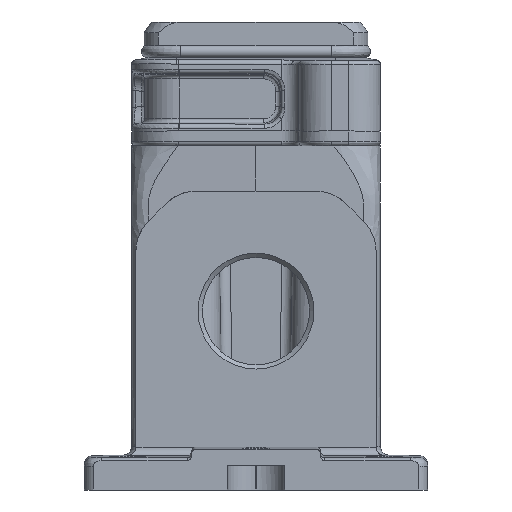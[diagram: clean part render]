
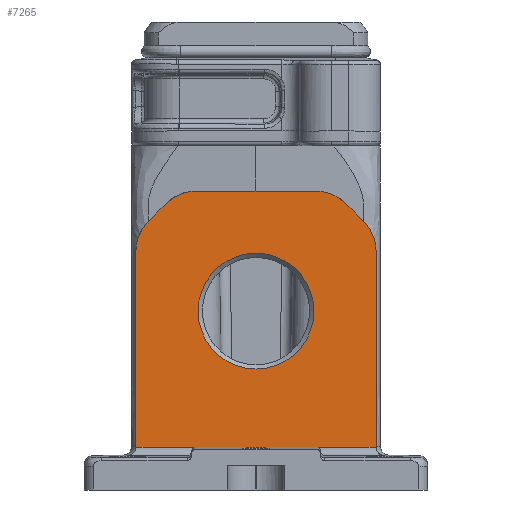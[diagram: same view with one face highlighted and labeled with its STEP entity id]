
A CAD part, left-side view. The second image highlights one B-rep face of the part: STEP entity #7265.
In plain terms, the highlighted planar face has unit normal (-1, 0, 0).
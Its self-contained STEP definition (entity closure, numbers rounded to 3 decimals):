
#6259=ELLIPSE('',#24502,2.,2.);
#6260=ELLIPSE('',#24503,1.,1.);
#6261=ELLIPSE('',#24504,1.,1.);
#6262=ELLIPSE('',#24505,2.,2.);
#6549=FACE_BOUND('',#9714,.T.);
#6550=FACE_BOUND('',#9715,.T.);
#7265=ADVANCED_FACE('',(#6549,#6550),#8255,.F.);
#8255=PLANE('',#24506);
#9714=EDGE_LOOP('',(#11401));
#9715=EDGE_LOOP('',(#11402,#11403,#11404,#11405,#11406,#11407,#11408,#11409,
#11410,#11411,#11412,#11413,#11414,#11415,#11416,#11417));
#10844=CIRCLE('',#24497,13.5);
#10845=CIRCLE('',#24498,10.);
#10846=CIRCLE('',#24499,10.);
#10847=CIRCLE('',#24500,10.);
#10848=CIRCLE('',#24501,10.);
#11401=ORIENTED_EDGE('',*,*,#18036,.T.);
#11402=ORIENTED_EDGE('',*,*,#18037,.F.);
#11403=ORIENTED_EDGE('',*,*,#18038,.T.);
#11404=ORIENTED_EDGE('',*,*,#18039,.F.);
#11405=ORIENTED_EDGE('',*,*,#18040,.T.);
#11406=ORIENTED_EDGE('',*,*,#18041,.F.);
#11407=ORIENTED_EDGE('',*,*,#18042,.F.);
#11408=ORIENTED_EDGE('',*,*,#18043,.T.);
#11409=ORIENTED_EDGE('',*,*,#18044,.F.);
#11410=ORIENTED_EDGE('',*,*,#18045,.T.);
#11411=ORIENTED_EDGE('',*,*,#18046,.F.);
#11412=ORIENTED_EDGE('',*,*,#18047,.F.);
#11413=ORIENTED_EDGE('',*,*,#18048,.F.);
#11414=ORIENTED_EDGE('',*,*,#18049,.T.);
#11415=ORIENTED_EDGE('',*,*,#18050,.T.);
#11416=ORIENTED_EDGE('',*,*,#18051,.T.);
#11417=ORIENTED_EDGE('',*,*,#18052,.T.);
#16403=VERTEX_POINT('',#31403);
#16404=VERTEX_POINT('',#31405);
#16405=VERTEX_POINT('',#31406);
#16406=VERTEX_POINT('',#31408);
#16407=VERTEX_POINT('',#31410);
#16408=VERTEX_POINT('',#31412);
#16409=VERTEX_POINT('',#31414);
#16410=VERTEX_POINT('',#31416);
#16411=VERTEX_POINT('',#31418);
#16412=VERTEX_POINT('',#31420);
#16413=VERTEX_POINT('',#31422);
#16414=VERTEX_POINT('',#31424);
#16415=VERTEX_POINT('',#31426);
#16416=VERTEX_POINT('',#31428);
#16417=VERTEX_POINT('',#31430);
#16418=VERTEX_POINT('',#31432);
#16419=VERTEX_POINT('',#31434);
#18036=EDGE_CURVE('',#16403,#16403,#10844,.T.);
#18037=EDGE_CURVE('',#16404,#16405,#20477,.T.);
#18038=EDGE_CURVE('',#16404,#16406,#10845,.T.);
#18039=EDGE_CURVE('',#16407,#16406,#20478,.T.);
#18040=EDGE_CURVE('',#16407,#16408,#10846,.T.);
#18041=EDGE_CURVE('',#16409,#16408,#20479,.T.);
#18042=EDGE_CURVE('',#16410,#16409,#10847,.T.);
#18043=EDGE_CURVE('',#16410,#16411,#20480,.T.);
#18044=EDGE_CURVE('',#16412,#16411,#10848,.T.);
#18045=EDGE_CURVE('',#16412,#16413,#20481,.T.);
#18046=EDGE_CURVE('',#16414,#16413,#6259,.T.);
#18047=EDGE_CURVE('',#16415,#16414,#20482,.T.);
#18048=EDGE_CURVE('',#16416,#16415,#6260,.T.);
#18049=EDGE_CURVE('',#16416,#16417,#20483,.T.);
#18050=EDGE_CURVE('',#16417,#16418,#6261,.T.);
#18051=EDGE_CURVE('',#16418,#16419,#20484,.T.);
#18052=EDGE_CURVE('',#16419,#16405,#6262,.T.);
#20477=LINE('',#31404,#21982);
#20478=LINE('',#31409,#21983);
#20479=LINE('',#31413,#21984);
#20480=LINE('',#31417,#21985);
#20481=LINE('',#31421,#21986);
#20482=LINE('',#31425,#21987);
#20483=LINE('',#31429,#21988);
#20484=LINE('',#31433,#21989);
#21982=VECTOR('',#26241,1.);
#21983=VECTOR('',#26244,1.);
#21984=VECTOR('',#26247,1.);
#21985=VECTOR('',#26250,1.);
#21986=VECTOR('',#26253,1.);
#21987=VECTOR('',#26256,1.);
#21988=VECTOR('',#26259,1.);
#21989=VECTOR('',#26262,1.);
#24497=AXIS2_PLACEMENT_3D('',#31402,#26239,#26240);
#24498=AXIS2_PLACEMENT_3D('',#31407,#26242,#26243);
#24499=AXIS2_PLACEMENT_3D('',#31411,#26245,#26246);
#24500=AXIS2_PLACEMENT_3D('',#31415,#26248,#26249);
#24501=AXIS2_PLACEMENT_3D('',#31419,#26251,#26252);
#24502=AXIS2_PLACEMENT_3D('',#31423,#26254,#26255);
#24503=AXIS2_PLACEMENT_3D('',#31427,#26257,#26258);
#24504=AXIS2_PLACEMENT_3D('',#31431,#26260,#26261);
#24505=AXIS2_PLACEMENT_3D('',#31435,#26263,#26264);
#24506=AXIS2_PLACEMENT_3D('',#31436,#26265,#26266);
#26239=DIRECTION('',(1.,0.,0.));
#26240=DIRECTION('',(0.,1.,0.));
#26241=DIRECTION('',(0.,0.,-1.));
#26242=DIRECTION('',(-1.,0.,0.));
#26243=DIRECTION('',(0.,-1.,0.));
#26244=DIRECTION('',(0.,-0.707,-0.707));
#26245=DIRECTION('',(-1.,0.,0.));
#26246=DIRECTION('',(0.,-1.,0.));
#26247=DIRECTION('',(0.,-1.,0.));
#26248=DIRECTION('',(1.,0.,0.));
#26249=DIRECTION('',(0.,1.,0.));
#26250=DIRECTION('',(0.,0.707,-0.707));
#26251=DIRECTION('',(1.,0.,0.));
#26252=DIRECTION('',(0.,1.,0.));
#26253=DIRECTION('',(0.,0.,-1.));
#26254=DIRECTION('',(-1.,0.,0.));
#26255=DIRECTION('',(0.,0.,1.));
#26256=DIRECTION('',(0.,1.,0.));
#26257=DIRECTION('',(-1.,0.,0.));
#26258=DIRECTION('',(0.,0.,-1.));
#26259=DIRECTION('',(0.,-1.,0.));
#26260=DIRECTION('',(1.,0.,0.));
#26261=DIRECTION('',(0.,0.,-1.));
#26262=DIRECTION('',(0.,-1.,0.));
#26263=DIRECTION('',(1.,0.,0.));
#26264=DIRECTION('',(0.,0.,1.));
#26265=DIRECTION('',(1.,0.,0.));
#26266=DIRECTION('',(0.,-1.,0.));
#31402=CARTESIAN_POINT('',(-49.6,0.,-38.5));
#31403=CARTESIAN_POINT('',(-49.6,13.5,-38.5));
#31404=CARTESIAN_POINT('',(-49.6,-28.,-72.5));
#31405=CARTESIAN_POINT('',(-49.6,-28.,-24.642));
#31406=CARTESIAN_POINT('',(-49.6,-28.,-70.2));
#31407=CARTESIAN_POINT('',(-49.6,-18.,-24.642));
#31408=CARTESIAN_POINT('',(-49.6,-25.071,-17.571));
#31409=CARTESIAN_POINT('',(-49.6,-28.,-20.5));
#31410=CARTESIAN_POINT('',(-49.6,-20.929,-13.429));
#31411=CARTESIAN_POINT('',(-49.6,-13.858,-20.5));
#31412=CARTESIAN_POINT('',(-49.6,-13.858,-10.5));
#31413=CARTESIAN_POINT('',(-49.6,-18.,-10.5));
#31414=CARTESIAN_POINT('',(-49.6,13.858,-10.5));
#31415=CARTESIAN_POINT('',(-49.6,13.858,-20.5));
#31416=CARTESIAN_POINT('',(-49.6,20.929,-13.429));
#31417=CARTESIAN_POINT('',(-49.6,28.,-20.5));
#31418=CARTESIAN_POINT('',(-49.6,25.071,-17.571));
#31419=CARTESIAN_POINT('',(-49.6,18.,-24.642));
#31420=CARTESIAN_POINT('',(-49.6,28.,-24.642));
#31421=CARTESIAN_POINT('',(-49.6,28.,-72.5));
#31422=CARTESIAN_POINT('',(-49.6,28.,-70.2));
#31423=CARTESIAN_POINT('',(-49.6,30.,-70.2));
#31424=CARTESIAN_POINT('',(-49.6,28.,-70.235));
#31425=CARTESIAN_POINT('',(-49.6,28.,-70.235));
#31426=CARTESIAN_POINT('',(-49.6,14.262,-70.235));
#31427=CARTESIAN_POINT('',(-49.6,14.,-71.2));
#31428=CARTESIAN_POINT('',(-49.6,14.,-70.2));
#31429=CARTESIAN_POINT('',(-49.6,-15.,-70.2));
#31430=CARTESIAN_POINT('',(-49.6,-14.,-70.2));
#31431=CARTESIAN_POINT('',(-49.6,-14.,-71.2));
#31432=CARTESIAN_POINT('',(-49.6,-14.262,-70.235));
#31433=CARTESIAN_POINT('',(-49.6,-28.,-70.235));
#31434=CARTESIAN_POINT('',(-49.6,-28.,-70.235));
#31435=CARTESIAN_POINT('',(-49.6,-30.,-70.2));
#31436=CARTESIAN_POINT('',(-49.6,-28.,-72.5));
